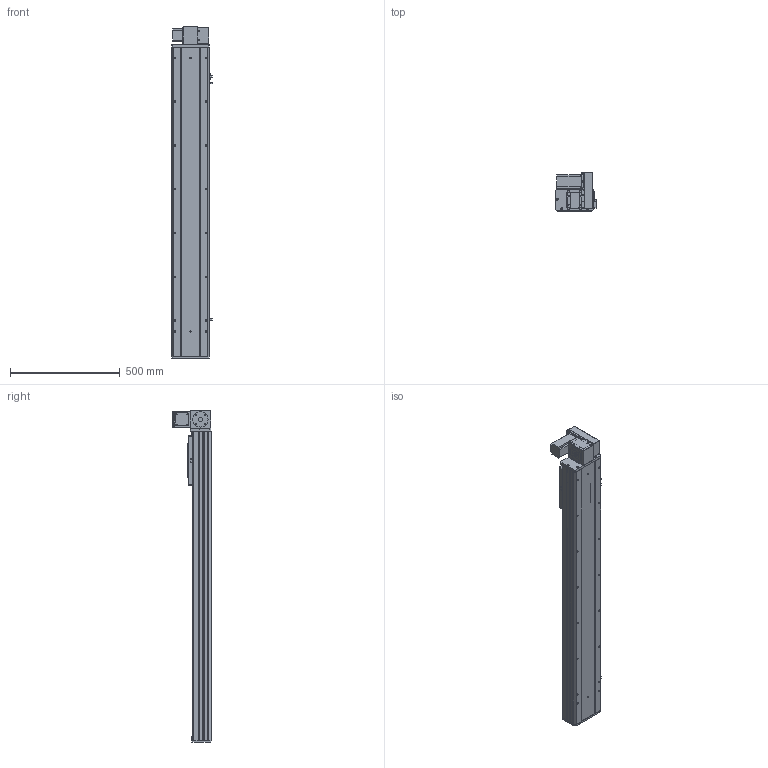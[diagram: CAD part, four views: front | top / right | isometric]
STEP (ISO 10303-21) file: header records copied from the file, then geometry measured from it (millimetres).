
FILE_DESCRIPTION (( 'STEP AP203' ), '1' );
FILE_NAME ('Y170CB-D105-S1100-UR-P400W.STEP', '2020-02-20T04:06:47', ( '微软用户' ), ( '微软中国' ), 'SwSTEP 2.0', 'SolidWorks 2017', '' );
FILE_SCHEMA (( 'CONFIG_CONTROL_DESIGN' ));
Length unit declared in the file: millimetre
Products named in the file (18): Y100-135俋离換覜ん--; 70CB-掛极-; Y170CB-陔俋离換覜結え---; --70CB --喘謫眊楊擘啣-; 70B喘謫眊----; Y1埴倛裔; 70CB-耜裔啣-; Y170CB-D105-S1100-UR-P400W; 17B-耜蚾蟀諉啣----; 70C--詩湍揤踡え-; 00B-俋欶BM--163; 70CB--耜裔; 70C-雄赽釱-奻-; B-源倛裔啣; 0C--雄赽釱俋欶-170; 0B-萇儂楊擘啣; 70CB-詩湍--; san松下电机400不带刹车----
Assembly tree (21 placements, depth 2):
  Y170CB-D105-S1100-UR-P400W
    B-源倛裔啣
    0B-萇儂楊擘啣
    san松下电机400不带刹车----
    70CB-掛极-
    --70CB --喘謫眊楊擘啣-
    70CB-耜裔啣-  x2
    70C--詩湍揤踡え-  x2
    70CB--耜裔
    70C-雄赽釱-奻-
    0C--雄赽釱俋欶-170
    70CB-詩湍--
    Y100-135俋离換覜ん--  x3
    Y170CB-陔俋离換覜結え---
    Y1埴倛裔
    17B-耜蚾蟀諉啣----
    00B-俋欶BM--163
    70B喘謫眊----
Bounding box: 183.5 x 174 x 1516 mm (x, y, z)
Volume: 6932647.9 mm3; surface area: 2487367 mm2
Topology: 21 solids, 21 shells, 1015 faces, 2717 edges, 1802 vertices
Faces by surface type: cylinder 529, plane 462, cone 24
Entity records: 32328 total; most frequent: CARTESIAN_POINT 5916, DIRECTION 5258, ORIENTED_EDGE 4916, EDGE_CURVE 2458, AXIS2_PLACEMENT_3D 1928, VERTEX_POINT 1632, LINE 1402, VECTOR 1402
